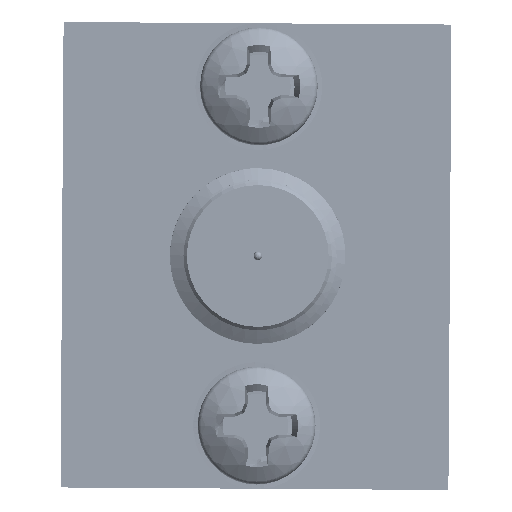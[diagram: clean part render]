
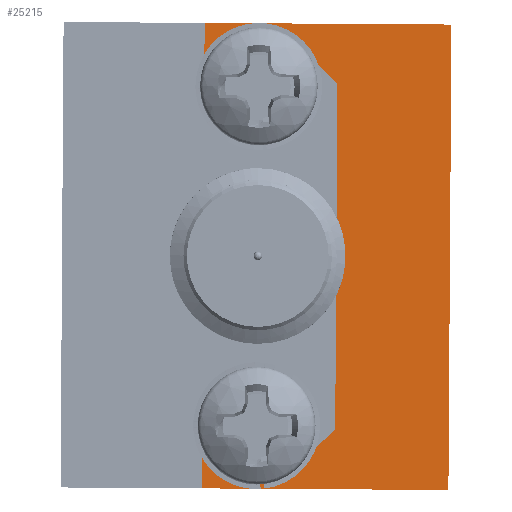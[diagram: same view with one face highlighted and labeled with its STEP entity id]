
A CAD part, left-side view. The second image highlights one B-rep face of the part: STEP entity #25215.
In plain terms, the highlighted planar face has unit normal (-1, 0, 0).
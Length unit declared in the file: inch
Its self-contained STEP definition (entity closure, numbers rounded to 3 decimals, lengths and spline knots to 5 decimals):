
#257 = AXIS2_PLACEMENT_3D ( 'NONE', #57535, #6474, #10172 ) ;
#1223 = CIRCLE ( 'NONE', #257, 0.014 ) ;
#2674 = EDGE_CURVE ( 'NONE', #47662, #37746, #30005, .T. ) ;
#3521 = AXIS2_PLACEMENT_3D ( 'NONE', #10731, #6138, #11341 ) ;
#6138 = DIRECTION ( 'NONE',  ( -1., 0., 0. ) ) ;
#6474 = DIRECTION ( 'NONE',  ( -1., 0., 0. ) ) ;
#8768 = CARTESIAN_POINT ( 'NONE',  ( -1.13, 0.115, -0.33 ) ) ;
#10172 = DIRECTION ( 'NONE',  ( 0., 0., 1. ) ) ;
#10731 = CARTESIAN_POINT ( 'NONE',  ( -1.13, 0.115, -0.33 ) ) ;
#11341 = DIRECTION ( 'NONE',  ( 0., 0., 1. ) ) ;
#13342 = ORIENTED_EDGE ( 'NONE', *, *, #2674, .F. ) ;
#17553 = DIRECTION ( 'NONE',  ( 0., -1., 0. ) ) ;
#21633 = LINE ( 'NONE', #50548, #45349 ) ;
#22111 = VECTOR ( 'NONE', #38934, 39.37008 ) ;
#22514 = VERTEX_POINT ( 'NONE', #8768 ) ;
#22769 = LINE ( 'NONE', #55101, #44082 ) ;
#22813 = EDGE_CURVE ( 'NONE', #37746, #39252, #21633, .T. ) ;
#23335 = CARTESIAN_POINT ( 'NONE',  ( -1.13, 0.0375, -0.014 ) ) ;
#23978 = CIRCLE ( 'NONE', #33824, 0.014 ) ;
#24116 = CARTESIAN_POINT ( 'NONE',  ( -1.13, 0.0375, 0. ) ) ;
#24769 = CARTESIAN_POINT ( 'NONE',  ( -1.13, 0.115, -0.33 ) ) ;
#25215 = ADVANCED_FACE ( 'NONE', ( #38742, #34117 ), #52870, .T. ) ;
#25703 = VERTEX_POINT ( 'NONE', #53026 ) ;
#28789 = CARTESIAN_POINT ( 'NONE',  ( -1.13, 0.115, 0.33 ) ) ;
#30005 = LINE ( 'NONE', #28789, #58315 ) ;
#31341 = CARTESIAN_POINT ( 'NONE',  ( -1.13, 0.115, 0.33 ) ) ;
#32643 = EDGE_CURVE ( 'NONE', #25703, #57496, #23978, .T. ) ;
#33166 = ORIENTED_EDGE ( 'NONE', *, *, #43135, .F. ) ;
#33824 = AXIS2_PLACEMENT_3D ( 'NONE', #24116, #38584, #53319 ) ;
#34117 = FACE_OUTER_BOUND ( 'NONE', #52417, .T. ) ;
#34749 = EDGE_LOOP ( 'NONE', ( #33166, #53228 ) ) ;
#37746 = VERTEX_POINT ( 'NONE', #53185 ) ;
#38340 = DIRECTION ( 'NONE',  ( 0., -1., 0. ) ) ;
#38584 = DIRECTION ( 'NONE',  ( -1., 0., 0. ) ) ;
#38742 = FACE_BOUND ( 'NONE', #34749, .T. ) ;
#38928 = ORIENTED_EDGE ( 'NONE', *, *, #57005, .T. ) ;
#38934 = DIRECTION ( 'NONE',  ( 0., 0., -1. ) ) ;
#39252 = VERTEX_POINT ( 'NONE', #45236 ) ;
#43135 = EDGE_CURVE ( 'NONE', #57496, #25703, #1223, .T. ) ;
#43547 = LINE ( 'NONE', #24769, #22111 ) ;
#44082 = VECTOR ( 'NONE', #17553, 39.37008 ) ;
#45236 = CARTESIAN_POINT ( 'NONE',  ( -1.13, -0.235, -0.33 ) ) ;
#45349 = VECTOR ( 'NONE', #59171, 39.37008 ) ;
#47316 = EDGE_CURVE ( 'NONE', #22514, #39252, #22769, .T. ) ;
#47662 = VERTEX_POINT ( 'NONE', #31341 ) ;
#50548 = CARTESIAN_POINT ( 'NONE',  ( -1.13, -0.235, -0.33 ) ) ;
#52417 = EDGE_LOOP ( 'NONE', ( #55600, #56981, #13342, #38928 ) ) ;
#52870 = PLANE ( 'NONE',  #3521 ) ;
#53026 = CARTESIAN_POINT ( 'NONE',  ( -1.13, 0.0375, 0.014 ) ) ;
#53185 = CARTESIAN_POINT ( 'NONE',  ( -1.13, -0.235, 0.33 ) ) ;
#53228 = ORIENTED_EDGE ( 'NONE', *, *, #32643, .F. ) ;
#53319 = DIRECTION ( 'NONE',  ( 0., 0., 1. ) ) ;
#55101 = CARTESIAN_POINT ( 'NONE',  ( -1.13, 0.115, -0.33 ) ) ;
#55600 = ORIENTED_EDGE ( 'NONE', *, *, #47316, .T. ) ;
#56981 = ORIENTED_EDGE ( 'NONE', *, *, #22813, .F. ) ;
#57005 = EDGE_CURVE ( 'NONE', #47662, #22514, #43547, .T. ) ;
#57496 = VERTEX_POINT ( 'NONE', #23335 ) ;
#57535 = CARTESIAN_POINT ( 'NONE',  ( -1.13, 0.0375, 0. ) ) ;
#58315 = VECTOR ( 'NONE', #38340, 39.37008 ) ;
#59171 = DIRECTION ( 'NONE',  ( 0., 0., -1. ) ) ;
